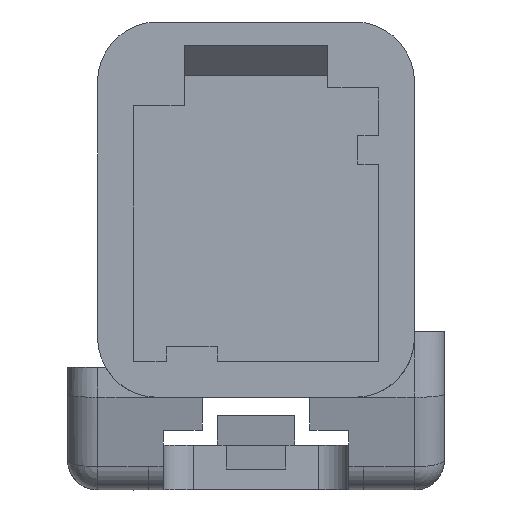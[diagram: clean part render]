
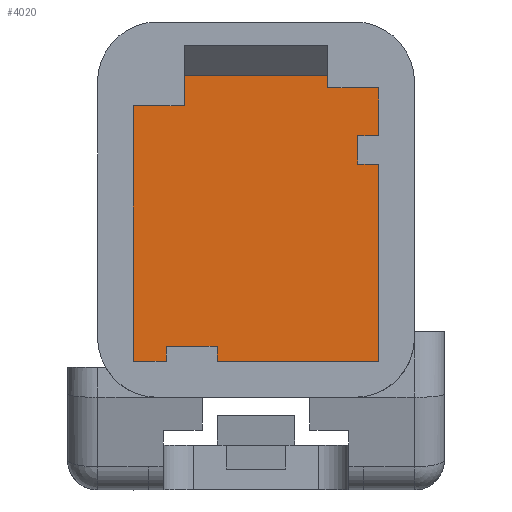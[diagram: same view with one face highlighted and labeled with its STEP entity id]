
A CAD part, left-side view. The second image highlights one B-rep face of the part: STEP entity #4020.
In plain terms, the highlighted planar face has unit normal (-1, 0, 0).
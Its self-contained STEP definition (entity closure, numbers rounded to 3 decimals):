
#3991=AXIS2_PLACEMENT_3D('Plane Axis2P3D',#3988,#3989,#3990) ;
#3478=CARTESIAN_POINT('Vertex',(0.,3.4,6.625)) ;
#3483=CARTESIAN_POINT('Line Origine',(0.,3.,6.625)) ;
#3487=CARTESIAN_POINT('Vertex',(0.,2.6,6.625)) ;
#3509=CARTESIAN_POINT('Line Origine',(0.,-1.,6.625)) ;
#3513=CARTESIAN_POINT('Vertex',(0.,-0.6,6.625)) ;
#3515=CARTESIAN_POINT('Vertex',(0.,-1.4,6.625)) ;
#3549=CARTESIAN_POINT('Line Origine',(0.,-1.4,6.225)) ;
#3553=CARTESIAN_POINT('Vertex',(0.,-1.4,5.825)) ;
#3586=CARTESIAN_POINT('Vertex',(0.,3.4,5.225)) ;
#3589=CARTESIAN_POINT('Line Origine',(0.,3.4,5.925)) ;
#3619=CARTESIAN_POINT('Vertex',(0.,2.3,-2.825)) ;
#3626=CARTESIAN_POINT('Vertex',(0.,2.3,-3.325)) ;
#3629=CARTESIAN_POINT('Line Origine',(0.,2.3,-3.075)) ;
#3646=CARTESIAN_POINT('Line Origine',(0.,3.15,-2.825)) ;
#3650=CARTESIAN_POINT('Vertex',(0.,4.,-2.825)) ;
#3674=CARTESIAN_POINT('Vertex',(0.,4.,-3.325)) ;
#3677=CARTESIAN_POINT('Line Origine',(0.,4.,-3.075)) ;
#3698=CARTESIAN_POINT('Vertex',(0.,5.1,5.225)) ;
#3701=CARTESIAN_POINT('Line Origine',(0.,4.25,5.225)) ;
#3722=CARTESIAN_POINT('Vertex',(0.,-2.4,3.275)) ;
#3729=CARTESIAN_POINT('Vertex',(0.,-2.4,4.225)) ;
#3732=CARTESIAN_POINT('Line Origine',(0.,-2.4,3.75)) ;
#3749=CARTESIAN_POINT('Line Origine',(0.,-2.75,3.275)) ;
#3753=CARTESIAN_POINT('Vertex',(0.,-3.1,3.275)) ;
#3777=CARTESIAN_POINT('Vertex',(0.,-3.1,5.825)) ;
#3780=CARTESIAN_POINT('Line Origine',(0.,-3.1,5.025)) ;
#3784=CARTESIAN_POINT('Vertex',(0.,-3.1,4.225)) ;
#3804=CARTESIAN_POINT('Line Origine',(0.,-2.25,5.825)) ;
#3821=CARTESIAN_POINT('Line Origine',(0.,-2.75,4.225)) ;
#3833=CARTESIAN_POINT('Line Origine',(0.,-3.1,-0.025)) ;
#3837=CARTESIAN_POINT('Vertex',(0.,-3.1,-3.325)) ;
#3857=CARTESIAN_POINT('Line Origine',(0.,5.1,0.95)) ;
#3861=CARTESIAN_POINT('Vertex',(0.,5.1,-3.325)) ;
#3881=CARTESIAN_POINT('Line Origine',(0.,4.55,-3.325)) ;
#3893=CARTESIAN_POINT('Line Origine',(0.,-0.4,-3.325)) ;
#3914=CARTESIAN_POINT('Vertex',(0.,2.6,6.825)) ;
#3924=CARTESIAN_POINT('Line Origine',(0.,2.6,6.725)) ;
#3973=CARTESIAN_POINT('Vertex',(0.,-0.6,6.825)) ;
#3976=CARTESIAN_POINT('Line Origine',(0.,-0.6,6.725)) ;
#3988=CARTESIAN_POINT('Axis2P3D Location',(0.,1.,0.275)) ;
#3993=CARTESIAN_POINT('Line Origine',(0.,1.,6.825)) ;
#3484=DIRECTION('Vector Direction',(0.,-1.,0.)) ;
#3510=DIRECTION('Vector Direction',(0.,-1.,0.)) ;
#3550=DIRECTION('Vector Direction',(0.,0.,-1.)) ;
#3590=DIRECTION('Vector Direction',(0.,0.,1.)) ;
#3630=DIRECTION('Vector Direction',(0.,0.,1.)) ;
#3647=DIRECTION('Vector Direction',(0.,1.,0.)) ;
#3678=DIRECTION('Vector Direction',(0.,0.,1.)) ;
#3702=DIRECTION('Vector Direction',(0.,1.,0.)) ;
#3733=DIRECTION('Vector Direction',(0.,0.,1.)) ;
#3750=DIRECTION('Vector Direction',(0.,1.,0.)) ;
#3781=DIRECTION('Vector Direction',(0.,0.,-1.)) ;
#3805=DIRECTION('Vector Direction',(0.,-1.,0.)) ;
#3822=DIRECTION('Vector Direction',(0.,1.,0.)) ;
#3834=DIRECTION('Vector Direction',(0.,0.,-1.)) ;
#3858=DIRECTION('Vector Direction',(0.,0.,1.)) ;
#3882=DIRECTION('Vector Direction',(0.,1.,0.)) ;
#3894=DIRECTION('Vector Direction',(0.,1.,0.)) ;
#3925=DIRECTION('Vector Direction',(0.,0.,-1.)) ;
#3977=DIRECTION('Vector Direction',(0.,0.,1.)) ;
#3989=DIRECTION('Axis2P3D Direction',(1.,0.,0.)) ;
#3990=DIRECTION('Axis2P3D XDirection',(0.,1.,0.)) ;
#3994=DIRECTION('Vector Direction',(0.,-1.,0.)) ;
#3485=VECTOR('Line Direction',#3484,1.) ;
#3511=VECTOR('Line Direction',#3510,1.) ;
#3551=VECTOR('Line Direction',#3550,1.) ;
#3591=VECTOR('Line Direction',#3590,1.) ;
#3631=VECTOR('Line Direction',#3630,1.) ;
#3648=VECTOR('Line Direction',#3647,1.) ;
#3679=VECTOR('Line Direction',#3678,1.) ;
#3703=VECTOR('Line Direction',#3702,1.) ;
#3734=VECTOR('Line Direction',#3733,1.) ;
#3751=VECTOR('Line Direction',#3750,1.) ;
#3782=VECTOR('Line Direction',#3781,1.) ;
#3806=VECTOR('Line Direction',#3805,1.) ;
#3823=VECTOR('Line Direction',#3822,1.) ;
#3835=VECTOR('Line Direction',#3834,1.) ;
#3859=VECTOR('Line Direction',#3858,1.) ;
#3883=VECTOR('Line Direction',#3882,1.) ;
#3895=VECTOR('Line Direction',#3894,1.) ;
#3926=VECTOR('Line Direction',#3925,1.) ;
#3978=VECTOR('Line Direction',#3977,1.) ;
#3995=VECTOR('Line Direction',#3994,1.) ;
#3999=ORIENTED_EDGE('',*,*,#3885,.F.) ;
#4000=ORIENTED_EDGE('',*,*,#3681,.T.) ;
#4001=ORIENTED_EDGE('',*,*,#3652,.F.) ;
#4002=ORIENTED_EDGE('',*,*,#3633,.F.) ;
#4003=ORIENTED_EDGE('',*,*,#3897,.F.) ;
#4004=ORIENTED_EDGE('',*,*,#3839,.F.) ;
#4005=ORIENTED_EDGE('',*,*,#3755,.T.) ;
#4006=ORIENTED_EDGE('',*,*,#3736,.T.) ;
#4007=ORIENTED_EDGE('',*,*,#3825,.F.) ;
#4008=ORIENTED_EDGE('',*,*,#3786,.F.) ;
#4009=ORIENTED_EDGE('',*,*,#3808,.F.) ;
#4010=ORIENTED_EDGE('',*,*,#3555,.F.) ;
#4011=ORIENTED_EDGE('',*,*,#3517,.F.) ;
#4012=ORIENTED_EDGE('',*,*,#3980,.T.) ;
#4013=ORIENTED_EDGE('',*,*,#3997,.T.) ;
#4014=ORIENTED_EDGE('',*,*,#3928,.T.) ;
#4015=ORIENTED_EDGE('',*,*,#3489,.F.) ;
#4016=ORIENTED_EDGE('',*,*,#3593,.F.) ;
#4017=ORIENTED_EDGE('',*,*,#3705,.T.) ;
#4018=ORIENTED_EDGE('',*,*,#3863,.F.) ;
#4020=ADVANCED_FACE('\X2\FF8AFF9FFF70FF82\X0\ \X2\FF8EFF9EFF83FF9EFF68FF70\X0\',(#4019),#3992,.F.) ;
#3489=EDGE_CURVE('',#3479,#3488,#3486,.T.) ;
#3517=EDGE_CURVE('',#3514,#3516,#3512,.T.) ;
#3555=EDGE_CURVE('',#3516,#3554,#3552,.T.) ;
#3593=EDGE_CURVE('',#3587,#3479,#3592,.T.) ;
#3633=EDGE_CURVE('',#3627,#3620,#3632,.T.) ;
#3652=EDGE_CURVE('',#3620,#3651,#3649,.T.) ;
#3681=EDGE_CURVE('',#3675,#3651,#3680,.T.) ;
#3705=EDGE_CURVE('',#3587,#3699,#3704,.T.) ;
#3736=EDGE_CURVE('',#3723,#3730,#3735,.T.) ;
#3755=EDGE_CURVE('',#3754,#3723,#3752,.T.) ;
#3786=EDGE_CURVE('',#3778,#3785,#3783,.T.) ;
#3808=EDGE_CURVE('',#3554,#3778,#3807,.T.) ;
#3825=EDGE_CURVE('',#3785,#3730,#3824,.T.) ;
#3839=EDGE_CURVE('',#3754,#3838,#3836,.T.) ;
#3863=EDGE_CURVE('',#3862,#3699,#3860,.T.) ;
#3885=EDGE_CURVE('',#3675,#3862,#3884,.T.) ;
#3897=EDGE_CURVE('',#3838,#3627,#3896,.T.) ;
#3928=EDGE_CURVE('',#3915,#3488,#3927,.T.) ;
#3980=EDGE_CURVE('',#3514,#3974,#3979,.T.) ;
#3997=EDGE_CURVE('',#3974,#3915,#3996,.F.) ;
#3998=EDGE_LOOP('',(#3999,#4000,#4001,#4002,#4003,#4004,#4005,#4006,#4007,#4008,#4009,#4010,#4011,#4012,#4013,#4014,#4015,#4016,#4017,#4018)) ;
#4019=FACE_OUTER_BOUND('',#3998,.T.) ;
#3486=LINE('Line',#3483,#3485) ;
#3512=LINE('Line',#3509,#3511) ;
#3552=LINE('Line',#3549,#3551) ;
#3592=LINE('Line',#3589,#3591) ;
#3632=LINE('Line',#3629,#3631) ;
#3649=LINE('Line',#3646,#3648) ;
#3680=LINE('Line',#3677,#3679) ;
#3704=LINE('Line',#3701,#3703) ;
#3735=LINE('Line',#3732,#3734) ;
#3752=LINE('Line',#3749,#3751) ;
#3783=LINE('Line',#3780,#3782) ;
#3807=LINE('Line',#3804,#3806) ;
#3824=LINE('Line',#3821,#3823) ;
#3836=LINE('Line',#3833,#3835) ;
#3860=LINE('Line',#3857,#3859) ;
#3884=LINE('Line',#3881,#3883) ;
#3896=LINE('Line',#3893,#3895) ;
#3927=LINE('Line',#3924,#3926) ;
#3979=LINE('Line',#3976,#3978) ;
#3996=LINE('Line',#3993,#3995) ;
#3992=PLANE('',#3991) ;
#3479=VERTEX_POINT('',#3478) ;
#3488=VERTEX_POINT('',#3487) ;
#3514=VERTEX_POINT('',#3513) ;
#3516=VERTEX_POINT('',#3515) ;
#3554=VERTEX_POINT('',#3553) ;
#3587=VERTEX_POINT('',#3586) ;
#3620=VERTEX_POINT('',#3619) ;
#3627=VERTEX_POINT('',#3626) ;
#3651=VERTEX_POINT('',#3650) ;
#3675=VERTEX_POINT('',#3674) ;
#3699=VERTEX_POINT('',#3698) ;
#3723=VERTEX_POINT('',#3722) ;
#3730=VERTEX_POINT('',#3729) ;
#3754=VERTEX_POINT('',#3753) ;
#3778=VERTEX_POINT('',#3777) ;
#3785=VERTEX_POINT('',#3784) ;
#3838=VERTEX_POINT('',#3837) ;
#3862=VERTEX_POINT('',#3861) ;
#3915=VERTEX_POINT('',#3914) ;
#3974=VERTEX_POINT('',#3973) ;
